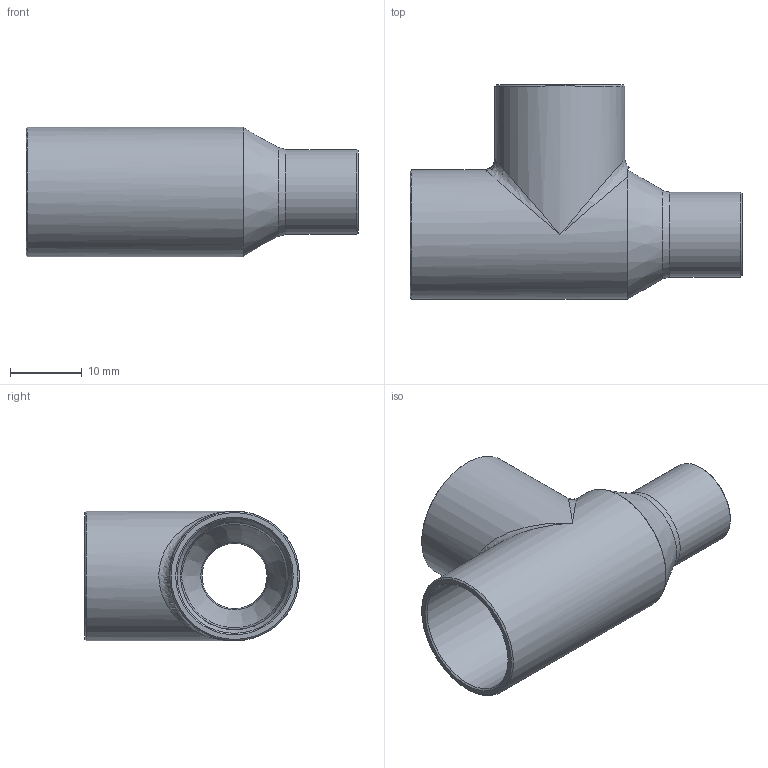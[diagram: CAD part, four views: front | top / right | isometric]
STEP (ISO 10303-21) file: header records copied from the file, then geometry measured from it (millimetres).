
FILE_DESCRIPTION((''),'2;1');
FILE_NAME('G:\SANHA-Ternat\Technik\Management\Bouwmaten + markeringen\z-maattekeningen 3D\29000s\29130585838_3d.stp','2017-07-31T15:56:57',('vdvijverd'),(''),'Autodesk Inventor 2009','Autodesk Inventor 2009','');
FILE_SCHEMA(('AUTOMOTIVE_DESIGN { 1 0 10303 214 1 1 1 1 }'));
Length unit declared in the file: millimetre
Products named in the file (1): 29130585838_3d
Bounding box: 46.3 x 29.95 x 18.1 mm (x, y, z)
Volume: 3457.2 mm3; surface area: 5633.5 mm2
Topology: 1 solids, 1 shells, 32 faces, 83 edges, 44 vertices
Faces by surface type: cone 10, cylinder 9, bspline 8, plane 3, torus 2
Full cylindrical faces by diameter (mm): 9.645 x1, 11.845 x1, 15.995 x2, 18.1 x2
Entity records: 1611 total; most frequent: CARTESIAN_POINT 972, DIRECTION 136, ORIENTED_EDGE 98, AXIS2_PLACEMENT_3D 68, EDGE_LOOP 55, EDGE_CURVE 49, VERTEX_POINT 38, FACE_OUTER_BOUND 32
